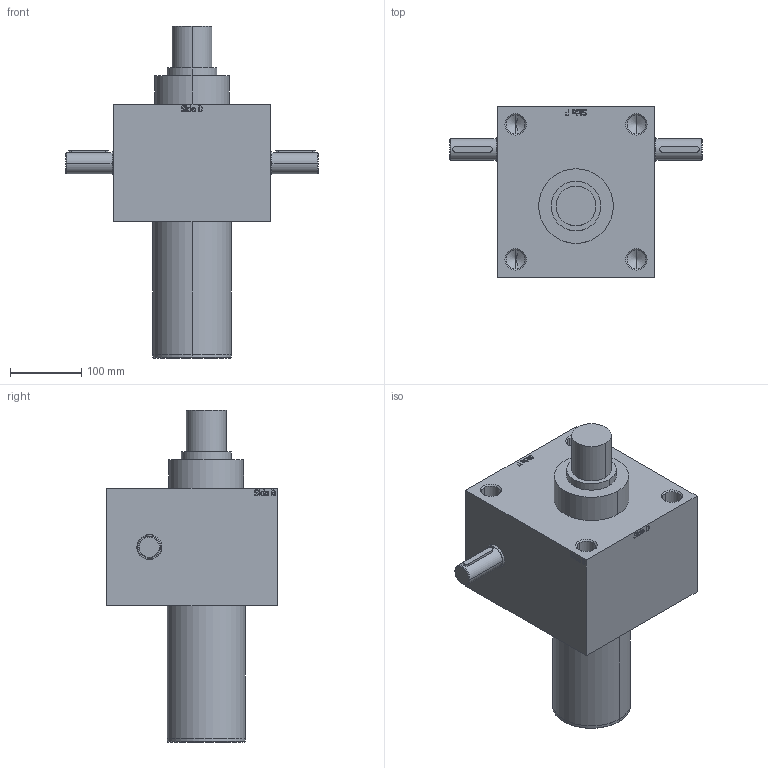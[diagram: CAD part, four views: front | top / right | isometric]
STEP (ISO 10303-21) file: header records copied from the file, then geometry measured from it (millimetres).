
FILE_DESCRIPTION (( 'STEP AP203' ), '1' );
FILE_NAME ('BJ2-GN-0100-GE.STEP', '2022-11-09T15:18:42', ( '' ), ( '' ), 'SwSTEP 2.0', 'SolidWorks 2022', '' );
FILE_SCHEMA (( 'CONFIG_CONTROL_DESIGN' ));
Length unit declared in the file: millimetre
Products named in the file (3): BJ2 STEP Grundmodel; M10x1 DIN 3405 A; BJ2-GN-0100-GE
Assembly tree (2 placements, depth 2):
  BJ2-GN-0100-GE
    M10x1 DIN 3405 A
    BJ2 STEP Grundmodel
Bounding box: 355 x 240 x 467 mm (x, y, z)
Volume: 10124253.8 mm3; surface area: 481094 mm2
Topology: 2 solids, 3 shells, 653 faces, 1695 edges, 1106 vertices
Faces by surface type: bspline 282, plane 279, cylinder 48, cone 44
Entity records: 21630 total; most frequent: CARTESIAN_POINT 7289, ORIENTED_EDGE 3350, DIRECTION 1989, EDGE_CURVE 1675, VERTEX_POINT 1106, VECTOR 985, LINE 985, EDGE_LOOP 731
